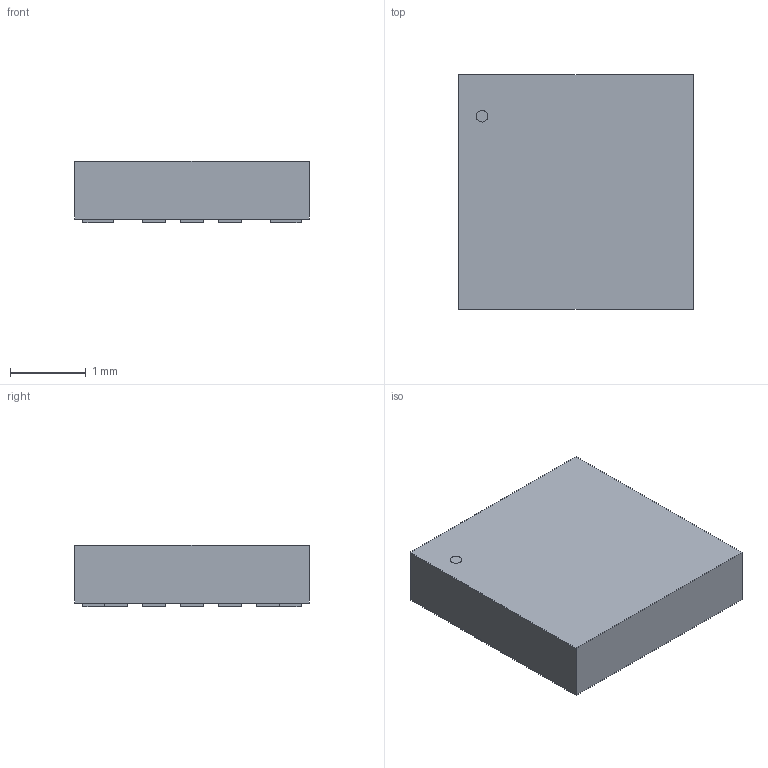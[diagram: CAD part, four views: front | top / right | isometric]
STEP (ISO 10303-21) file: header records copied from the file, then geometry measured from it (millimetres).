
FILE_DESCRIPTION(('STEP AP214'),'1');
FILE_NAME('IAM-20680_IVS','2026-11-05T08:38:02',(''),(''),'','','');
FILE_SCHEMA(('AUTOMOTIVE_DESIGN'));
Length unit declared in the file: millimetre
Products named in the file (1): product
Bounding box: 3.1 x 3.1 x 0.81 mm (x, y, z)
Volume: 7.4 mm3; surface area: 33.8 mm2
Topology: 18 solids, 18 shells, 105 faces, 207 edges, 138 vertices
Faces by surface type: plane 104, cylinder 1
Full cylindrical faces by diameter (mm): 0.155 x1
Entity records: 2677 total; most frequent: DIRECTION 422, ORIENTED_EDGE 412, CARTESIAN_POINT 247, EDGE_CURVE 206, LINE 204, VECTOR 204, VERTEX_POINT 138, AXIS2_PLACEMENT_3D 109
